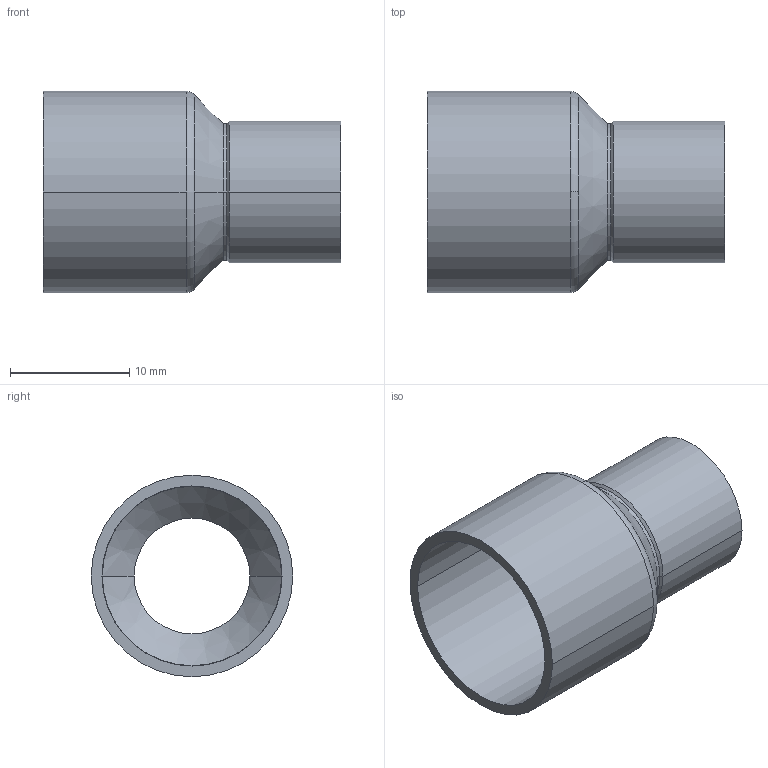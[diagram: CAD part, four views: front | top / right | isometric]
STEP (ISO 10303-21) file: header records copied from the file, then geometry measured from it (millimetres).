
FILE_DESCRIPTION((''),'2;1');
FILE_NAME('G:\Technics\CAD\Bauteile\Serie 15240\152401510.stp','2005-10-21T12:51:02',('boden'),(''),'Autodesk Inventor 8','Autodesk Inventor 8','');
FILE_SCHEMA(('AUTOMOTIVE_DESIGN { 1 0 10303 214 1 1 1 1 }'));
Length unit declared in the file: millimetre
Products named in the file (1): 152401510
Bounding box: 25 x 16.91 x 16.91 mm (x, y, z)
Volume: 1011.3 mm3; surface area: 2323.6 mm2
Topology: 1 solids, 1 shells, 26 faces, 60 edges, 36 vertices
Faces by surface type: cylinder 12, cone 8, torus 2, bspline 2, plane 2
Entity records: 855 total; most frequent: CARTESIAN_POINT 211, DIRECTION 150, ORIENTED_EDGE 120, AXIS2_PLACEMENT_3D 65, EDGE_CURVE 60, CIRCLE 40, VERTEX_POINT 36, EDGE_LOOP 28
